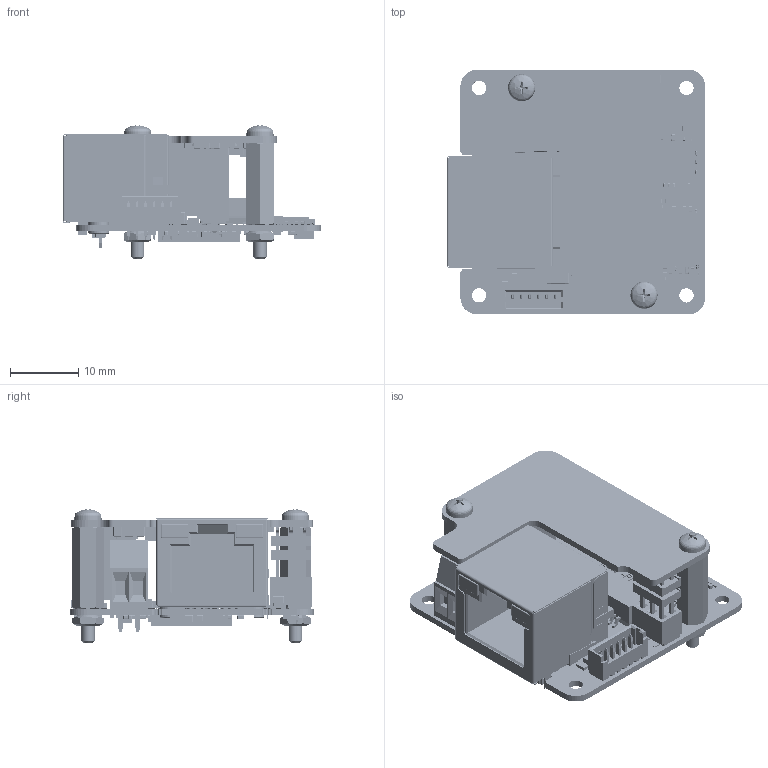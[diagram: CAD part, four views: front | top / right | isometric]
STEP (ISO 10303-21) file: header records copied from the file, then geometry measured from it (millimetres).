
FILE_DESCRIPTION(/* description */ (''),/* implementation_level */ '2;1');
FILE_NAME(/* name */ 'KSM_306-23-01-00-00_ZB PlatinenKam_GigE-4SB_PoE add-on.stp',/* time_stamp */ '2024-09-20T07:12:26+02:00',/* author */ ('Westermann'),/* organization */ ('TIS/ Westermann'),/* preprocessor_version */ 'ST-DEVELOPER v20',/* originating_system */ 'Autodesk Inventor 2025',/* authorisation */ '520025 mm^3');
FILE_SCHEMA (('AUTOMOTIVE_DESIGN { 1 0 10303 214 3 1 1 }'));
Products named in the file (6): 306-23-01-00-00_ZB PlatinenKam_GigE-4SB_PoE add-on; Sensorboard_4G-GG0_GigE-4SB; PoE add-on-Board; IA-Distanzbolzen M2x1; Linsenschraube M2x4; Sechskanntmutter M2
Assembly tree (8 placements, depth 2):
  306-23-01-00-00_ZB PlatinenKam_GigE-4SB_PoE add-on
    Sensorboard_4G-GG0_GigE-4SB
    PoE add-on-Board
    IA-Distanzbolzen M2x1  x2
    Linsenschraube M2x4  x2
    Sechskanntmutter M2  x2
Bounding box: 37.99 x 36.01 x 19.59 mm (x, y, z)
Volume: 6985.8 mm3; surface area: 10661.5 mm2
Topology: 17 solids, 17 shells, 12776 faces, 30122 edges, 16172 vertices
Faces by surface type: cylinder 5098, plane 5070, sphere 1258, torus 1254, cone 62, bspline 34
Full cylindrical faces by diameter (mm): 0.3 x1, 0.5 x6, 0.739 x1, 1.05 x2, 1.2 x2, 1.567 x4, 1.783 x2, 2 x4, 2.032 x2, 2.1 x6, 2.3 x2
Entity records: 360664 total; most frequent: DIRECTION 64304, CARTESIAN_POINT 58901, ORIENTED_EDGE 57400, EDGE_CURVE 28700, AXIS2_PLACEMENT_3D 23034, LINE 18236, VECTOR 18236, VERTEX_POINT 16067
